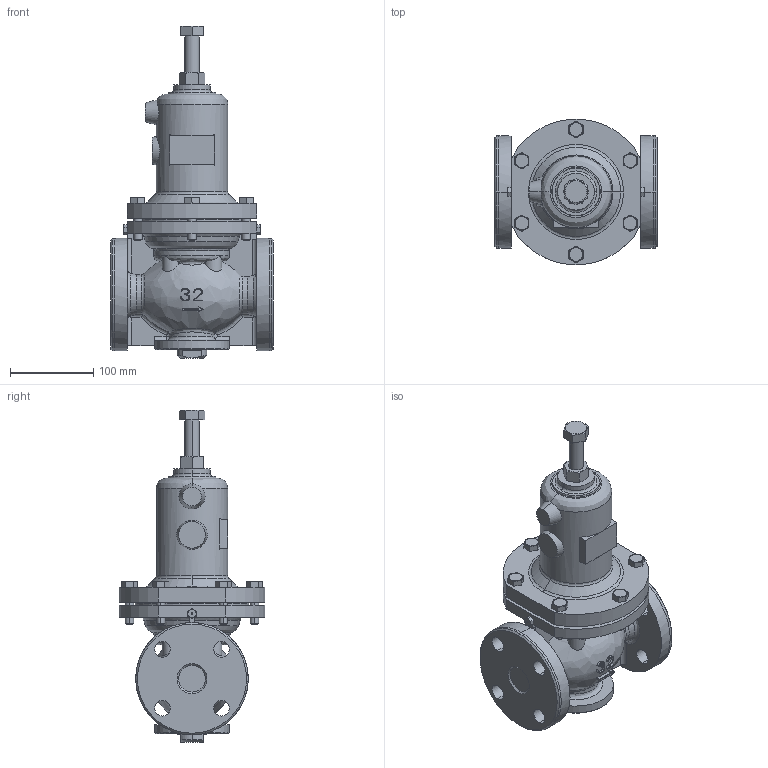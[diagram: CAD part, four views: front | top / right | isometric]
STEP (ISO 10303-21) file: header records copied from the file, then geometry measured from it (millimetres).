
FILE_DESCRIPTION( (''), '2;1');
FILE_NAME ('PC1056.10872.GD-200(32A)_27404.stp','2024-09-11T16:14:13',(''),(''),'spGate 19.8.4 (****-****-****-****)','','');
FILE_SCHEMA (('AUTOMOTIVE_DESIGN'));
Length unit declared in the file: millimetre
Products named in the file (4): Assembly; GD-200(32A)本体P; GD-200(3250)保護筒; CP_''_JIS B 1181 六角ナット 2種 上 ''_700
Assembly tree (3 placements, depth 2):
  Assembly
    GD-200(32A)本体P
    GD-200(3250)保護筒
    CP_''_JIS B 1181 六角ナット 2種 上 ''_700
Bounding box: 195 x 174.39 x 398.61 mm (x, y, z)
Volume: 3239784.1 mm3; surface area: 303645.6 mm2
Topology: 3 solids, 3 shells, 477 faces, 1216 edges, 777 vertices
Faces by surface type: bspline 185, plane 166, cylinder 122, sphere 4
Entity records: 29782 total; most frequent: CARTESIAN_POINT 10312, ORIENTED_EDGE 2424, COLOUR_RGB 1692, PRESENTATION_STYLE_ASSIGNMENT 1692, STYLED_ITEM 1692, DIRECTION 1630, EDGE_CURVE 1212, DRAUGHTING_PRE_DEFINED_CURVE_FONT 1212
